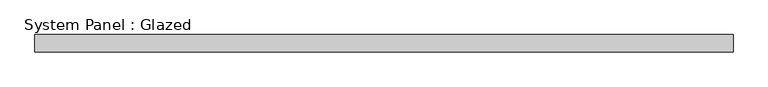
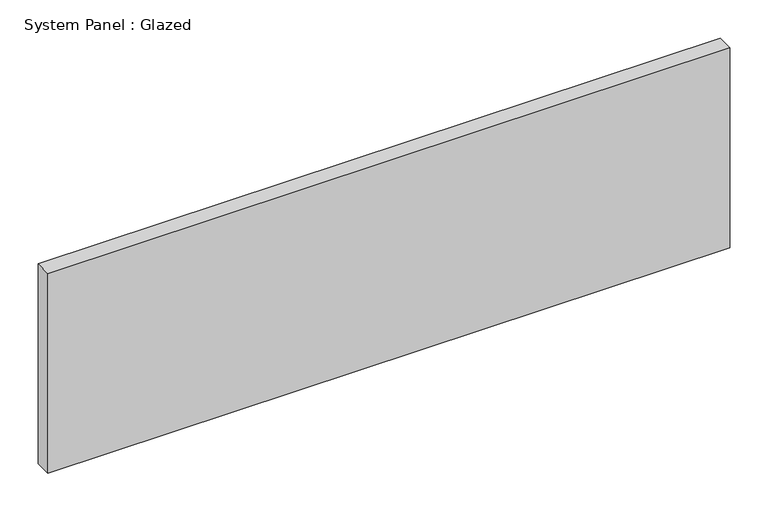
"""IFC4 building model written with IfcOpenShell, lengths in millimetres: plate geometry, System Panel : Glazed."""

from ifc_helpers import new_model, si_unit, origin, origin_with_axes, place, context, project, spatial, polyline, outline, extrude, source, transform, mapped, element, save


def system_panel_glazed_8867470d(model_context):
    return source(origin(), model_context, "Body", "SweptSolid", [
        extrude(outline(polyline([(516.255, -44.45), (-516.255, -44.45), (-516.255, -19.05), (516.255, -19.05), (516.255, -44.45)])), origin_with_axes(), (0.0, 0.0, 1.0), 319.8283668),
    ])


if __name__ == "__main__":
    model = new_model("IFC4")
    model_context = context("Model", 3, world=origin())
    ifc_project = project(units=[si_unit("LENGTHUNIT", "METRE", prefix="MILLI")], contexts=[model_context])
    site = spatial("IfcSite", under=ifc_project)
    building = spatial("IfcBuilding", under=site)
    placement = place(None, origin())
    system_panel_glazed_shape = system_panel_glazed_8867470d(model_context)
    element("IfcPlate", 1, ObjectType="System Panel : Glazed", at=placement, inside=building, context=model_context, shape_type="MappedRepresentation", body=[
        mapped(system_panel_glazed_shape, transform((0.0, 0.0, 0.0), x_axis=(1.0, 0.0, 0.0), y_axis=(0.0, 1.0, 0.0), z_axis=(0.0, 0.0, 1.0))),
    ])
    save(model, "model.ifc")
